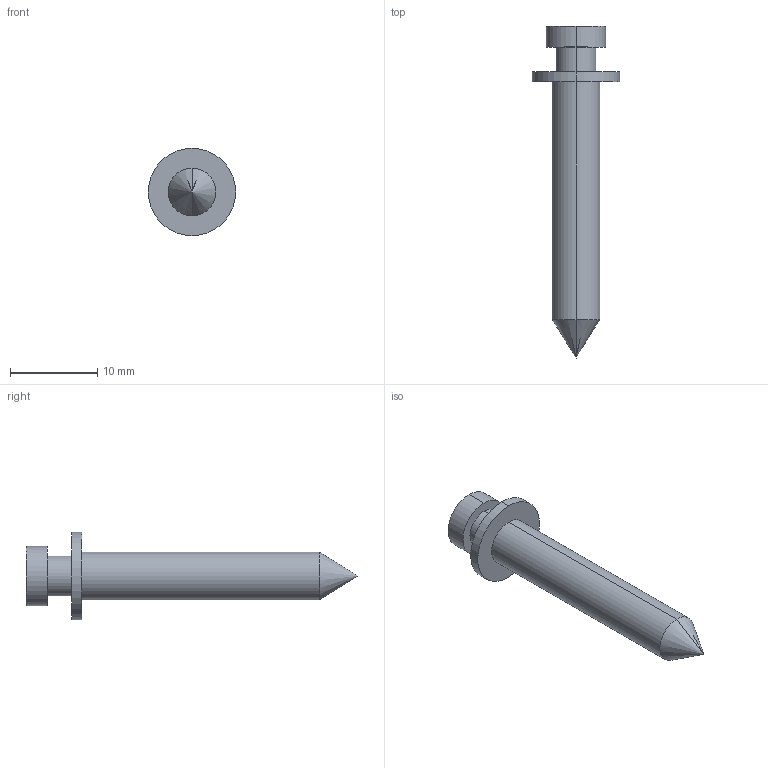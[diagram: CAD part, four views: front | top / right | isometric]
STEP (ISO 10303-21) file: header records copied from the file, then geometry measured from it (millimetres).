
FILE_DESCRIPTION (( 'STEP AP214' ), '1' );
FILE_NAME ('5068_V01_REF_PRT_SH_SCR.STEP', '2026-01-20T15:11:41', ( '' ), ( '' ), 'SwSTEP 2.0', 'SolidWorks 2025', '' );
FILE_SCHEMA (( 'AUTOMOTIVE_DESIGN' ));
Length unit declared in the file: inch
Products named in the file (1): 5068_V01_REF_PRT_SH_SCR
Bounding box: 10.03 x 38.15 x 10.03 mm (x, y, z)
Volume: 907 mm3; surface area: 820.4 mm2
Topology: 1 solids, 1 shells, 14 faces, 28 edges, 17 vertices
Faces by surface type: cylinder 8, plane 4, cone 2
Entity records: 385 total; most frequent: DIRECTION 72, CARTESIAN_POINT 58, ORIENTED_EDGE 52, AXIS2_PLACEMENT_3D 31, EDGE_CURVE 26, EDGE_LOOP 17, VERTEX_POINT 17, CIRCLE 16
